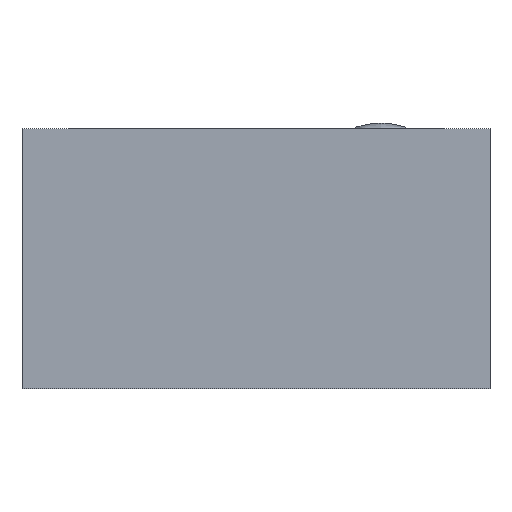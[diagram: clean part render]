
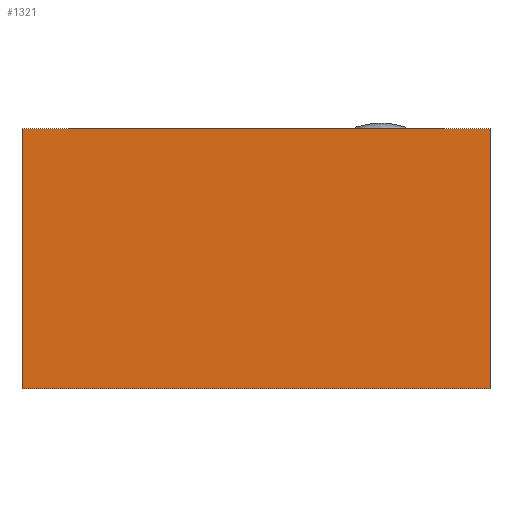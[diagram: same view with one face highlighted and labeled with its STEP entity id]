
A CAD part, left-side view. The second image highlights one B-rep face of the part: STEP entity #1321.
In plain terms, the highlighted planar face has unit normal (-1, 0, 0).
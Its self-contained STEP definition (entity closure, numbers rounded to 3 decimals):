
#178=FACE_OUTER_BOUND('',#271,.T.);
#271=EDGE_LOOP('',(#1166,#1167,#1168,#1169));
#396=LINE('',#2209,#524);
#399=LINE('',#2214,#527);
#400=LINE('',#2217,#528);
#402=LINE('',#2220,#530);
#524=VECTOR('',#1806,10.);
#527=VECTOR('',#1811,10.);
#528=VECTOR('',#1814,10.);
#530=VECTOR('',#1818,10.);
#647=VERTEX_POINT('',#2206);
#648=VERTEX_POINT('',#2208);
#649=VERTEX_POINT('',#2212);
#650=VERTEX_POINT('',#2216);
#821=EDGE_CURVE('',#647,#648,#396,.T.);
#824=EDGE_CURVE('',#649,#647,#399,.T.);
#825=EDGE_CURVE('',#650,#648,#400,.T.);
#827=EDGE_CURVE('',#650,#649,#402,.T.);
#1166=ORIENTED_EDGE('',*,*,#827,.F.);
#1167=ORIENTED_EDGE('',*,*,#825,.T.);
#1168=ORIENTED_EDGE('',*,*,#821,.F.);
#1169=ORIENTED_EDGE('',*,*,#824,.F.);
#1233=PLANE('',#1445);
#1321=ADVANCED_FACE('',(#178),#1233,.T.);
#1445=AXIS2_PLACEMENT_3D('',#2219,#1816,#1817);
#1806=DIRECTION('',(0.,-1.,0.));
#1811=DIRECTION('',(0.,0.,1.));
#1814=DIRECTION('',(0.,0.,1.));
#1816=DIRECTION('center_axis',(-1.,0.,0.));
#1817=DIRECTION('ref_axis',(0.,-1.,0.));
#1818=DIRECTION('',(0.,1.,0.));
#2206=CARTESIAN_POINT('',(-15.,9.,10.));
#2208=CARTESIAN_POINT('',(-15.,-9.,10.));
#2209=CARTESIAN_POINT('',(-15.,-9.,10.));
#2212=CARTESIAN_POINT('',(-15.,9.,0.));
#2214=CARTESIAN_POINT('',(-15.,9.,0.));
#2216=CARTESIAN_POINT('',(-15.,-9.,0.));
#2217=CARTESIAN_POINT('',(-15.,-9.,0.));
#2219=CARTESIAN_POINT('Origin',(-15.,9.,0.));
#2220=CARTESIAN_POINT('',(-15.,-9.,0.));
